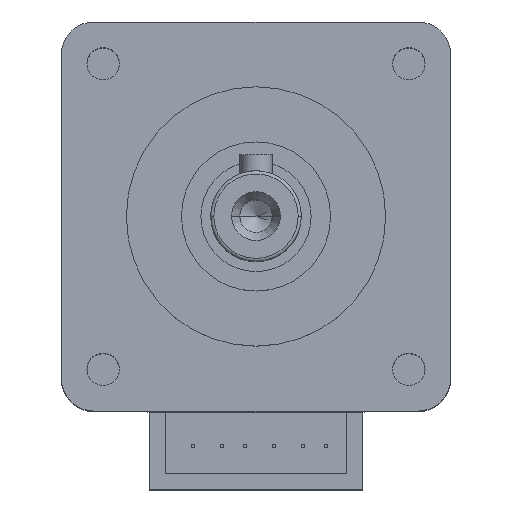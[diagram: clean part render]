
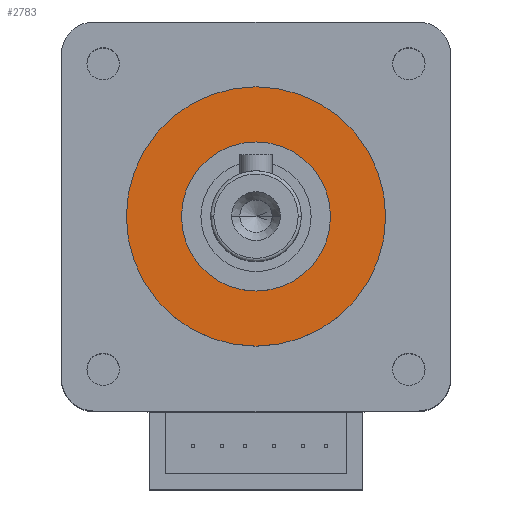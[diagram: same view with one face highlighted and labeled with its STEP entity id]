
A CAD part, top view. The second image highlights one B-rep face of the part: STEP entity #2783.
In plain terms, the highlighted planar face has unit normal (0, 0, 1).
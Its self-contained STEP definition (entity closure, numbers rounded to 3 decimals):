
#50 = DIRECTION ( 'NONE',  ( -1., 0., 0. ) ) ;
#78 = DIRECTION ( 'NONE',  ( 0., 0., -1. ) ) ;
#239 = CIRCLE ( 'NONE', #2751, 11.5 ) ;
#300 = ORIENTED_EDGE ( 'NONE', *, *, #4625, .F. ) ;
#307 = AXIS2_PLACEMENT_3D ( 'NONE', #1590, #78, #50 ) ;
#814 = AXIS2_PLACEMENT_3D ( 'NONE', #5794, #1227, #2737 ) ;
#893 = AXIS2_PLACEMENT_3D ( 'NONE', #1487, #1010, #4012 ) ;
#918 = DIRECTION ( 'NONE',  ( 0., 0., 1. ) ) ;
#970 = VERTEX_POINT ( 'NONE', #4129 ) ;
#1010 = DIRECTION ( 'NONE',  ( 0., 0., 1. ) ) ;
#1227 = DIRECTION ( 'NONE',  ( 0., 0., -1. ) ) ;
#1424 = AXIS2_PLACEMENT_3D ( 'NONE', #5142, #2490, #4554 ) ;
#1487 = CARTESIAN_POINT ( 'NONE',  ( 0., 0., 2.5 ) ) ;
#1522 = CARTESIAN_POINT ( 'NONE',  ( -20., 0., 2.5 ) ) ;
#1532 = EDGE_LOOP ( 'NONE', ( #1811, #300 ) ) ;
#1590 = CARTESIAN_POINT ( 'NONE',  ( 0., 0., 2.5 ) ) ;
#1606 = EDGE_CURVE ( 'NONE', #4073, #970, #239, .T. ) ;
#1811 = ORIENTED_EDGE ( 'NONE', *, *, #1606, .F. ) ;
#2490 = DIRECTION ( 'NONE',  ( 0., 0., -1. ) ) ;
#2562 = FACE_BOUND ( 'NONE', #1532, .T. ) ;
#2668 = ORIENTED_EDGE ( 'NONE', *, *, #3596, .F. ) ;
#2737 = DIRECTION ( 'NONE',  ( -1., 0., 0. ) ) ;
#2751 = AXIS2_PLACEMENT_3D ( 'NONE', #2996, #918, #6581 ) ;
#2783 = ADVANCED_FACE ( 'NONE', ( #2562, #4578 ), #4684, .F. ) ;
#2942 = CIRCLE ( 'NONE', #893, 11.5 ) ;
#2996 = CARTESIAN_POINT ( 'NONE',  ( 0., 0., 2.5 ) ) ;
#3596 = EDGE_CURVE ( 'NONE', #4299, #5197, #4147, .T. ) ;
#3877 = CARTESIAN_POINT ( 'NONE',  ( -11.5, 0., 2.5 ) ) ;
#3971 = ORIENTED_EDGE ( 'NONE', *, *, #5276, .F. ) ;
#4003 = CARTESIAN_POINT ( 'NONE',  ( 20., 0., 2.5 ) ) ;
#4012 = DIRECTION ( 'NONE',  ( -1., 0., 0. ) ) ;
#4073 = VERTEX_POINT ( 'NONE', #3877 ) ;
#4129 = CARTESIAN_POINT ( 'NONE',  ( 11.5, 0., 2.5 ) ) ;
#4147 = CIRCLE ( 'NONE', #814, 20. ) ;
#4299 = VERTEX_POINT ( 'NONE', #1522 ) ;
#4554 = DIRECTION ( 'NONE',  ( -1., 0., 0. ) ) ;
#4578 = FACE_OUTER_BOUND ( 'NONE', #5082, .T. ) ;
#4625 = EDGE_CURVE ( 'NONE', #970, #4073, #2942, .T. ) ;
#4684 = PLANE ( 'NONE',  #307 ) ;
#5082 = EDGE_LOOP ( 'NONE', ( #2668, #3971 ) ) ;
#5142 = CARTESIAN_POINT ( 'NONE',  ( 0., 0., 2.5 ) ) ;
#5197 = VERTEX_POINT ( 'NONE', #4003 ) ;
#5276 = EDGE_CURVE ( 'NONE', #5197, #4299, #6234, .T. ) ;
#5794 = CARTESIAN_POINT ( 'NONE',  ( 0., 0., 2.5 ) ) ;
#6234 = CIRCLE ( 'NONE', #1424, 20. ) ;
#6581 = DIRECTION ( 'NONE',  ( -1., 0., 0. ) ) ;
